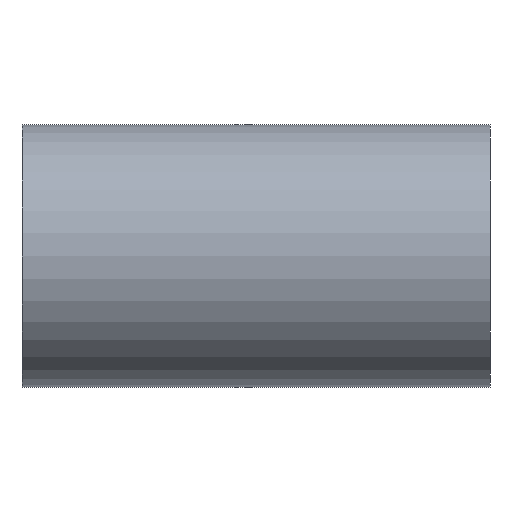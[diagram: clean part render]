
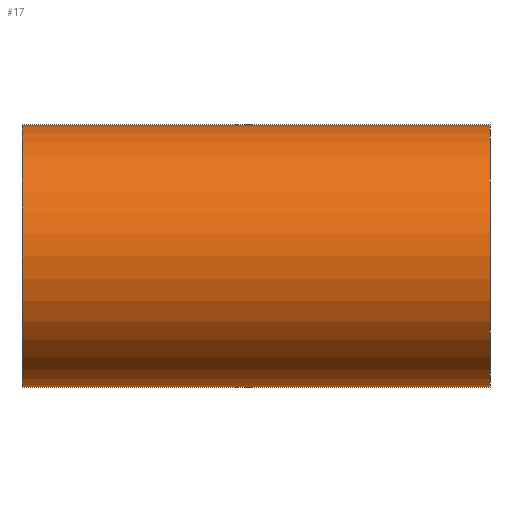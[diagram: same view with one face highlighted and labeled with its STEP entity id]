
A CAD part, front view. The second image highlights one B-rep face of the part: STEP entity #17.
In plain terms, the highlighted cylindrical face has radius 30 mm (diameter 60 mm), a full revolution.
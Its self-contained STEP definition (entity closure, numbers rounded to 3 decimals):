
#17 = ADVANCED_FACE('',(#18),#32,.T.);
#18 = FACE_BOUND('',#19,.F.);
#19 = EDGE_LOOP('',(#20,#50,#77,#78));
#20 = ORIENTED_EDGE('',*,*,#21,.T.);
#21 = EDGE_CURVE('',#22,#24,#26,.T.);
#22 = VERTEX_POINT('',#23);
#23 = CARTESIAN_POINT('',(-53.5,30.,0.));
#24 = VERTEX_POINT('',#25);
#25 = CARTESIAN_POINT('',(53.5,30.,0.));
#26 = SEAM_CURVE('',#27,(#31,#43),.PCURVE_S1.);
#27 = LINE('',#28,#29);
#28 = CARTESIAN_POINT('',(-53.5,30.,0.));
#29 = VECTOR('',#30,1.);
#30 = DIRECTION('',(1.,0.,0.));
#31 = PCURVE('',#32,#37);
#32 = CYLINDRICAL_SURFACE('',#33,30.);
#33 = AXIS2_PLACEMENT_3D('',#34,#35,#36);
#34 = CARTESIAN_POINT('',(-53.5,0.,0.));
#35 = DIRECTION('',(-1.,-0.,-0.));
#36 = DIRECTION('',(0.,1.,0.));
#37 = DEFINITIONAL_REPRESENTATION('',(#38),#42);
#38 = LINE('',#39,#40);
#39 = CARTESIAN_POINT('',(-0.,0.));
#40 = VECTOR('',#41,1.);
#41 = DIRECTION('',(-0.,-1.));
#42 = ( GEOMETRIC_REPRESENTATION_CONTEXT(2) 
PARAMETRIC_REPRESENTATION_CONTEXT() REPRESENTATION_CONTEXT('2D SPACE',''
  ) );
#43 = PCURVE('',#32,#44);
#44 = DEFINITIONAL_REPRESENTATION('',(#45),#49);
#45 = LINE('',#46,#47);
#46 = CARTESIAN_POINT('',(-6.283,0.));
#47 = VECTOR('',#48,1.);
#48 = DIRECTION('',(-0.,-1.));
#49 = ( GEOMETRIC_REPRESENTATION_CONTEXT(2) 
PARAMETRIC_REPRESENTATION_CONTEXT() REPRESENTATION_CONTEXT('2D SPACE',''
  ) );
#50 = ORIENTED_EDGE('',*,*,#51,.T.);
#51 = EDGE_CURVE('',#24,#24,#52,.T.);
#52 = SURFACE_CURVE('',#53,(#58,#65),.PCURVE_S1.);
#53 = CIRCLE('',#54,30.);
#54 = AXIS2_PLACEMENT_3D('',#55,#56,#57);
#55 = CARTESIAN_POINT('',(53.5,0.,0.));
#56 = DIRECTION('',(1.,0.,0.));
#57 = DIRECTION('',(0.,1.,0.));
#58 = PCURVE('',#32,#59);
#59 = DEFINITIONAL_REPRESENTATION('',(#60),#64);
#60 = LINE('',#61,#62);
#61 = CARTESIAN_POINT('',(-0.,-107.));
#62 = VECTOR('',#63,1.);
#63 = DIRECTION('',(-1.,0.));
#64 = ( GEOMETRIC_REPRESENTATION_CONTEXT(2) 
PARAMETRIC_REPRESENTATION_CONTEXT() REPRESENTATION_CONTEXT('2D SPACE',''
  ) );
#65 = PCURVE('',#66,#71);
#66 = PLANE('',#67);
#67 = AXIS2_PLACEMENT_3D('',#68,#69,#70);
#68 = CARTESIAN_POINT('',(53.5,0.,0.));
#69 = DIRECTION('',(1.,0.,0.));
#70 = DIRECTION('',(-0.,0.,1.));
#71 = DEFINITIONAL_REPRESENTATION('',(#72),#76);
#72 = CIRCLE('',#73,30.);
#73 = AXIS2_PLACEMENT_2D('',#74,#75);
#74 = CARTESIAN_POINT('',(0.,0.));
#75 = DIRECTION('',(0.,-1.));
#76 = ( GEOMETRIC_REPRESENTATION_CONTEXT(2) 
PARAMETRIC_REPRESENTATION_CONTEXT() REPRESENTATION_CONTEXT('2D SPACE',''
  ) );
#77 = ORIENTED_EDGE('',*,*,#21,.F.);
#78 = ORIENTED_EDGE('',*,*,#79,.F.);
#79 = EDGE_CURVE('',#22,#22,#80,.T.);
#80 = SURFACE_CURVE('',#81,(#86,#93),.PCURVE_S1.);
#81 = CIRCLE('',#82,30.);
#82 = AXIS2_PLACEMENT_3D('',#83,#84,#85);
#83 = CARTESIAN_POINT('',(-53.5,0.,0.));
#84 = DIRECTION('',(1.,0.,0.));
#85 = DIRECTION('',(0.,1.,0.));
#86 = PCURVE('',#32,#87);
#87 = DEFINITIONAL_REPRESENTATION('',(#88),#92);
#88 = LINE('',#89,#90);
#89 = CARTESIAN_POINT('',(-0.,0.));
#90 = VECTOR('',#91,1.);
#91 = DIRECTION('',(-1.,0.));
#92 = ( GEOMETRIC_REPRESENTATION_CONTEXT(2) 
PARAMETRIC_REPRESENTATION_CONTEXT() REPRESENTATION_CONTEXT('2D SPACE',''
  ) );
#93 = PCURVE('',#94,#99);
#94 = PLANE('',#95);
#95 = AXIS2_PLACEMENT_3D('',#96,#97,#98);
#96 = CARTESIAN_POINT('',(-53.5,0.,0.));
#97 = DIRECTION('',(1.,0.,0.));
#98 = DIRECTION('',(-0.,0.,1.));
#99 = DEFINITIONAL_REPRESENTATION('',(#100),#104);
#100 = CIRCLE('',#101,30.);
#101 = AXIS2_PLACEMENT_2D('',#102,#103);
#102 = CARTESIAN_POINT('',(0.,0.));
#103 = DIRECTION('',(0.,-1.));
#104 = ( GEOMETRIC_REPRESENTATION_CONTEXT(2) 
PARAMETRIC_REPRESENTATION_CONTEXT() REPRESENTATION_CONTEXT('2D SPACE',''
  ) );
